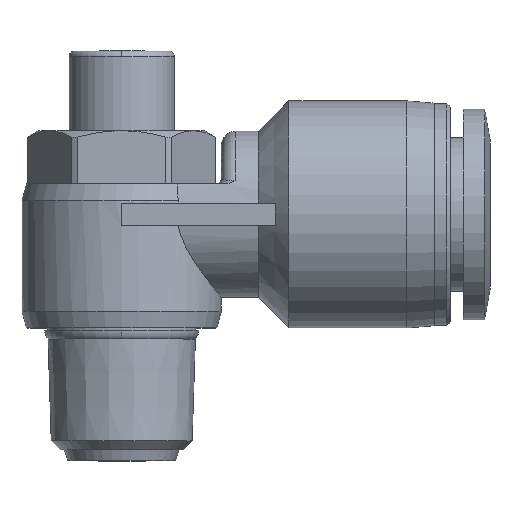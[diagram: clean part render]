
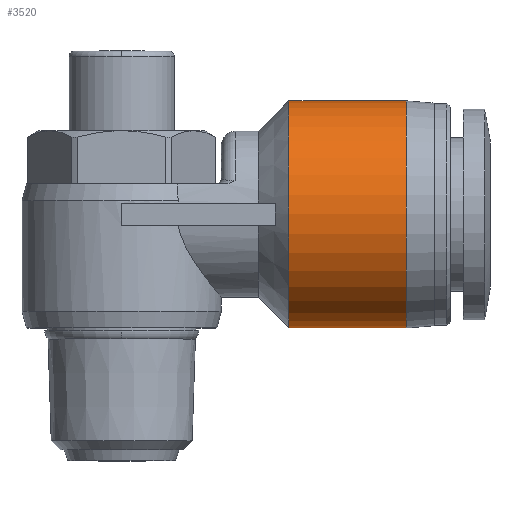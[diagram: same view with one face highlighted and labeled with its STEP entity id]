
A CAD part, top view. The second image highlights one B-rep face of the part: STEP entity #3520.
In plain terms, the highlighted cylindrical face has radius 10.25 mm (diameter 20.5 mm), a partial arc.
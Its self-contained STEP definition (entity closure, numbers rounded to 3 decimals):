
#345 = VERTEX_POINT ( 'NONE', #2350 ) ;
#443 = VECTOR ( 'NONE', #3134, 1000. ) ;
#458 = DIRECTION ( 'NONE',  ( -1., 0., 0. ) ) ;
#559 = ORIENTED_EDGE ( 'NONE', *, *, #797, .T. ) ;
#686 = VERTEX_POINT ( 'NONE', #2358 ) ;
#700 = ORIENTED_EDGE ( 'NONE', *, *, #2960, .F. ) ;
#767 = CARTESIAN_POINT ( 'NONE',  ( 20.4, 21.25, 0. ) ) ;
#797 = EDGE_CURVE ( 'NONE', #2118, #1570, #3354, .T. ) ;
#869 = ORIENTED_EDGE ( 'NONE', *, *, #1168, .T. ) ;
#1007 = CARTESIAN_POINT ( 'NONE',  ( 20.4, 11., 0. ) ) ;
#1086 = DIRECTION ( 'NONE',  ( 0., -1., 0. ) ) ;
#1120 = DIRECTION ( 'NONE',  ( 0., -1., 0. ) ) ;
#1168 = EDGE_CURVE ( 'NONE', #1570, #345, #3550, .T. ) ;
#1570 = VERTEX_POINT ( 'NONE', #3154 ) ;
#1675 = DIRECTION ( 'NONE',  ( -1., 0., 0. ) ) ;
#1723 = DIRECTION ( 'NONE',  ( 0., -1., 0. ) ) ;
#1805 = CYLINDRICAL_SURFACE ( 'NONE', #3186, 10.25 ) ;
#1850 = CARTESIAN_POINT ( 'NONE',  ( 20.4, 31.5, 0. ) ) ;
#2118 = VERTEX_POINT ( 'NONE', #3194 ) ;
#2248 = EDGE_CURVE ( 'NONE', #2118, #686, #2695, .T. ) ;
#2350 = CARTESIAN_POINT ( 'NONE',  ( 15.1, 31.5, 0. ) ) ;
#2358 = CARTESIAN_POINT ( 'NONE',  ( 15.1, 11., 0. ) ) ;
#2479 = CIRCLE ( 'NONE', #3180, 10.25 ) ;
#2596 = AXIS2_PLACEMENT_3D ( 'NONE', #3050, #3747, #1723 ) ;
#2611 = DIRECTION ( 'NONE',  ( -1., 0., 0. ) ) ;
#2695 = LINE ( 'NONE', #1007, #3653 ) ;
#2885 = EDGE_LOOP ( 'NONE', ( #559, #869, #700, #3443 ) ) ;
#2960 = EDGE_CURVE ( 'NONE', #686, #345, #2479, .T. ) ;
#3050 = CARTESIAN_POINT ( 'NONE',  ( 25.7, 21.25, 0. ) ) ;
#3134 = DIRECTION ( 'NONE',  ( -1., 0., 0. ) ) ;
#3154 = CARTESIAN_POINT ( 'NONE',  ( 25.7, 31.5, 0. ) ) ;
#3180 = AXIS2_PLACEMENT_3D ( 'NONE', #3388, #1675, #1086 ) ;
#3186 = AXIS2_PLACEMENT_3D ( 'NONE', #767, #458, #1120 ) ;
#3194 = CARTESIAN_POINT ( 'NONE',  ( 25.7, 11., 0. ) ) ;
#3354 = CIRCLE ( 'NONE', #2596, 10.25 ) ;
#3388 = CARTESIAN_POINT ( 'NONE',  ( 15.1, 21.25, 0. ) ) ;
#3443 = ORIENTED_EDGE ( 'NONE', *, *, #2248, .F. ) ;
#3520 = ADVANCED_FACE ( 'NONE', ( #3761 ), #1805, .T. ) ;
#3550 = LINE ( 'NONE', #1850, #443 ) ;
#3653 = VECTOR ( 'NONE', #2611, 1000. ) ;
#3747 = DIRECTION ( 'NONE',  ( -1., 0., 0. ) ) ;
#3761 = FACE_OUTER_BOUND ( 'NONE', #2885, .T. ) ;
